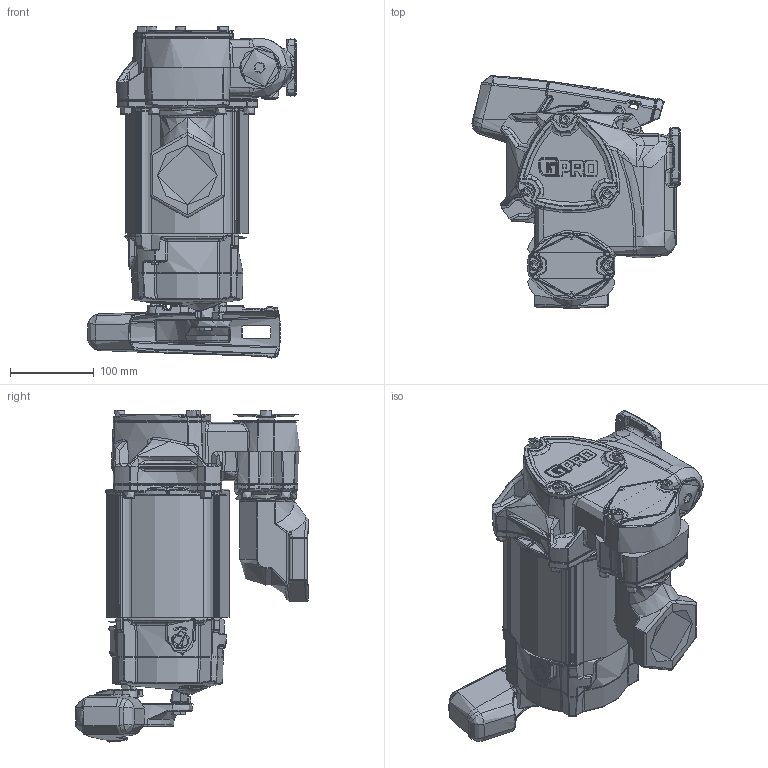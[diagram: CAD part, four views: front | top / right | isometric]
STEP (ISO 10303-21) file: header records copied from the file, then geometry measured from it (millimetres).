
FILE_DESCRIPTION(/* description */ (''),/* implementation_level */ '2;1');
FILE_NAME(/* name */ 'V35 115PO.stp',/* time_stamp */ '2025-02-07T09:27:59-06:00',/* author */ ('gdanhar'),/* organization */ (''),/* preprocessor_version */ 'ST-DEVELOPER v20',/* originating_system */ 'Autodesk Inventor 2024',/* authorisation */ '');
FILE_SCHEMA (('AUTOMOTIVE_DESIGN { 1 0 10303 214 3 1 1 }'));
Length unit declared in the file: inch
Products named in the file (4): V35_WEB_ASSY; 172100-01_WEB; 162204-11; 904009-28
Assembly tree (4 placements, depth 2):
  V35_WEB_ASSY
    172100-01_WEB
    162204-11
    904009-28  x2
Bounding box: 249.12 x 278.29 x 396.85 mm (x, y, z)
Volume: 7393481.1 mm3; surface area: 429762.8 mm2
Topology: 6 solids, 7 shells, 7232 faces, 18067 edges, 10977 vertices
Faces by surface type: bspline 2900, plane 1832, cylinder 1246, torus 545, cone 402, sphere 307
Full cylindrical faces by diameter (mm): 4.978 x11, 5.842 x6, 5.994 x4, 6 x68, 7.806 x4, 8 x1, 9.487 x1, 9.525 x6, 9.906 x1, 10 x4, 10.5 x2, 10.516 x1, 12.706 x1, 13 x13, 36.932 x1, 45.212 x1, 47.625 x1, 48.26 x1, 71.12 x1, 72.39 x1
Entity records: 344169 total; most frequent: CARTESIAN_POINT 181510, ORIENTED_EDGE 35870, DIRECTION 27903, EDGE_CURVE 17935, AXIS2_PLACEMENT_3D 11546, VERTEX_POINT 10950, EDGE_LOOP 7521, FACE_OUTER_BOUND 7214
